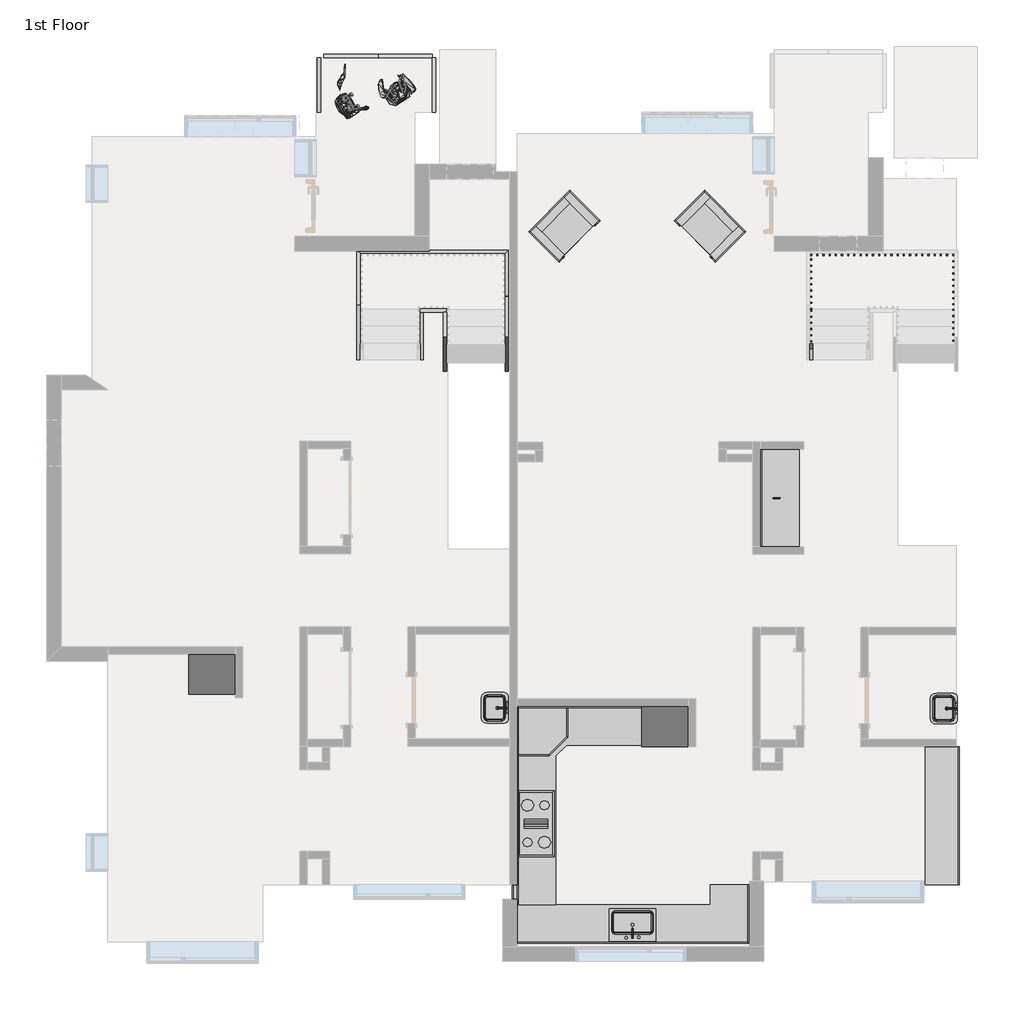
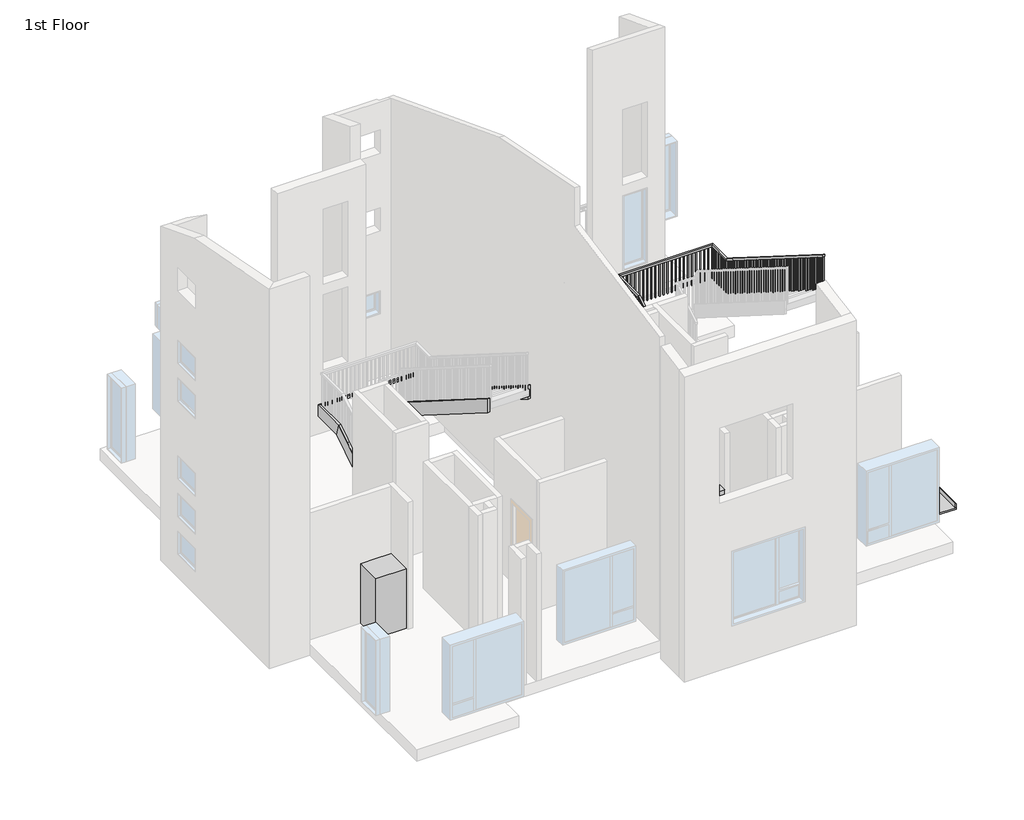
# One storey, part 5 of 6: 15 furniture elements, 8 members, 7 proxies, 4 flow terminals, 2 geographic elements, 1 railing.
"""IFC4 building model written with IfcOpenShell, lengths in millimetres."""

from ifc_helpers import new_model, si_unit, frame, origin, place, context, project, spatial, polyline, outline, extrude, faceted_brep, transform, mapped, element, save
from components import proxy_dee7c00b, proxy_442c6cfd, railing_1panel_square_2b676750, flow_terminal_4af5d52b, flow_terminal_5184717d, flow_terminal_0aeb31e3, furniture_f1e63d7b, furniture_c05eaed2, furniture_9c6ca97c, furniture_16018ffc, furniture_1f73a918, furniture_61266c35, furniture_aef3df76, furniture_a113b24a, furniture_f167ba72, corbu_armchair_corbu_armchair_71097553, corbu_armchair_corbu_armchair_8b21c121, furniture_7ee350fa, counter_top_counter_top_2_d2a73151, furniture_c58d4479, furniture_23ed0d10, geographic_element_6e18f213, geographic_element_c4ab7724, geographic_element_af0ef37f

model = new_model("IFC4")

# Units and contexts
model_context = context("Model", 3, world=origin())
ifc_project = project(units=[si_unit("LENGTHUNIT", "METRE", prefix="MILLI")], contexts=[model_context])

# Site, building, storey
site = spatial("IfcSite", under=ifc_project)
building = spatial("IfcBuilding", under=site)
storey = spatial("IfcBuildingStorey", under=building, Name="1st Floor", Elevation=0.0)

# Proxies
placement = place(None, origin())
proxy_shape = proxy_dee7c00b(model_context)
element("IfcBuildingElementProxy", 1, Name="Cook Top-4 Unit : 40\" x 21\"", ObjectType="Cook Top-4 Unit : 40\" x 21\"", at=placement, inside=storey, context=model_context, shape_type="MappedRepresentation", body=[
    mapped(proxy_shape, transform((-1269.7321781, -4910.7686915, 127.0), x_axis=(0.0, 1.0, 0.0), y_axis=(-1.0, 0.0, 0.0), z_axis=(0.0, 0.0, 1.0))),
])
proxy_2_shape = proxy_442c6cfd(model_context)
element("IfcBuildingElementProxy", 2, Name="Refrigerator : 30\" x 62\"", ObjectType="Refrigerator : 30\" x 62\"", at=placement, inside=storey, context=model_context, shape_type="MappedRepresentation", body=[
    mapped(proxy_2_shape, transform((1235.5655789, -2979.9561915, 0.0), x_axis=(-1.0, 0.0, 0.0), y_axis=(0.0, -1.0, 0.0), z_axis=(0.0, 0.0, 1.0))),
])
element("IfcBuildingElementProxy", 3, Name="Refrigerator : 30\" x 62\"", ObjectType="Refrigerator : 30\" x 62\"", at=placement, inside=storey, context=model_context, shape_type="MappedRepresentation", body=[
    mapped(proxy_2_shape, transform((-6218.0913287, -2121.3686915, 0.0), x_axis=(-1.0, 0.0, 0.0), y_axis=(0.0, -1.0, 0.0), z_axis=(0.0, 0.0, 1.0))),
])
railing_1panel_square_shape = railing_1panel_square_2b676750(model_context)
element("IfcBuildingElementProxy", 4, Name="railing(inprogress)3 : railing 1panel square", ObjectType="railing(inprogress)3 : railing 1panel square", at=placement, inside=storey, context=model_context, shape_type="MappedRepresentation", body=[
    mapped(railing_1panel_square_shape, transform((-4828.9823605, 6715.6813085, 0.0), x_axis=(0.0, 1.0, 0.0), y_axis=(-1.0, 0.0, 0.0), z_axis=(0.0, 0.0, 1.0))),
])
element("IfcBuildingElementProxy", 5, Name="railing(inprogress)3 : railing 1panel square", ObjectType="railing(inprogress)3 : railing 1panel square", at=placement, inside=storey, context=model_context, shape_type="MappedRepresentation", body=[
    mapped(railing_1panel_square_shape, transform((-3947.8910651, 7708.5252297, 0.0), x_axis=(1.0, 0.0, 0.0), y_axis=(0.0, 1.0, 0.0), z_axis=(0.0, 0.0, 1.0))),
])
element("IfcBuildingElementProxy", 6, Name="railing(inprogress)3 : railing 1panel square", ObjectType="railing(inprogress)3 : railing 1panel square", at=placement, inside=storey, context=model_context, shape_type="MappedRepresentation", body=[
    mapped(railing_1panel_square_shape, transform((-4839.2723151, 7708.900241, 0.0), x_axis=(1.0, 0.0, 0.0), y_axis=(0.0, 1.0, 0.0), z_axis=(0.0, 0.0, 1.0))),
])
element("IfcBuildingElementProxy", 7, Name="railing(inprogress)3 : railing 1panel square", ObjectType="railing(inprogress)3 : railing 1panel square", at=placement, inside=storey, context=model_context, shape_type="MappedRepresentation", body=[
    mapped(railing_1panel_square_shape, transform((-2955.3010146, 7772.1625585, 0.0), x_axis=(0.0, -1.0, 0.0), y_axis=(1.0, 0.0, 0.0), z_axis=(0.0, 0.0, 1.0))),
])

# Flow terminals
flow_terminal_shape = flow_terminal_4af5d52b(model_context)
element("IfcFlowTerminal", 8, ObjectType="Sink Kitchen-Single : 30\" x 21\"", at=placement, inside=storey, context=model_context, shape_type="MappedRepresentation", body=[
    mapped(flow_terminal_shape, transform((334.5070625, -6571.2232904, 0.0), x_axis=(-1.0, 0.0, 0.0), y_axis=(0.0, -1.0, 0.0), z_axis=(0.0, 0.0, 1.0))),
])
flow_terminal_2_shape = flow_terminal_5184717d(model_context)
element("IfcFlowTerminal", 9, ObjectType="Sink Vanity-Round : 19\" x 19\"", at=placement, inside=storey, context=model_context, shape_type="MappedRepresentation", body=[
    mapped(flow_terminal_2_shape, transform((2881.7281723, 350.65568, 0.0), x_axis=(0.0, 1.0, 0.0), y_axis=(-1.0, 0.0, 0.0), z_axis=(0.0, 0.0, 1.0))),
])
flow_terminal_3_shape = flow_terminal_0aeb31e3(model_context)
element("IfcFlowTerminal", 10, ObjectType="Sink Vanity-Square : 24\" x 19\"", at=placement, inside=storey, context=model_context, shape_type="MappedRepresentation", body=[
    mapped(flow_terminal_3_shape, transform((5486.3201778, -2998.8737314, 0.0), x_axis=(0.0, -1.0, 0.0), y_axis=(1.0, 0.0, 0.0), z_axis=(0.0, 0.0, 1.0))),
])
element("IfcFlowTerminal", 11, ObjectType="Sink Vanity-Square : 24\" x 19\"", at=placement, inside=storey, context=model_context, shape_type="MappedRepresentation", body=[
    mapped(flow_terminal_3_shape, transform((-1903.9025792, -2988.8737314, 0.0), x_axis=(0.0, -1.0, 0.0), y_axis=(1.0, 0.0, 0.0), z_axis=(0.0, 0.0, 1.0))),
])

# Furniture
furniture_shape = furniture_f1e63d7b(model_context)
element("IfcFurniture", 12, ObjectType="Base Cabinet-Single Door & Drawer : 12\"", at=placement, inside=storey, context=model_context, shape_type="MappedRepresentation", body=[
    mapped(furniture_shape, transform((2242.8678219, -6096.0434866, 0.0), x_axis=(0.0, -1.0, 0.0), y_axis=(1.0, 0.0, 0.0), z_axis=(0.0, 0.0, 1.0))),
])
furniture_2_shape = furniture_c05eaed2(model_context)
element("IfcFurniture", 13, ObjectType="Base Cabinet-Single Door & Drawer : 24\"", at=placement, inside=storey, context=model_context, shape_type="MappedRepresentation", body=[
    mapped(furniture_2_shape, transform((-1660.0344211, -4116.7063964, 0.0), x_axis=(0.0, 1.0, 0.0), y_axis=(-1.0, 0.0, 0.0), z_axis=(0.0, 0.0, 1.0))),
])
furniture_3_shape = furniture_9c6ca97c(model_context)
element("IfcFurniture", 14, ObjectType="Base Cabinet-Double Door & 2 Drawer : 33\"", at=placement, inside=storey, context=model_context, shape_type="MappedRepresentation", body=[
    mapped(furniture_3_shape, transform((-1660.0344211, -5888.3563964, 0.0), x_axis=(0.0, 1.0, 0.0), y_axis=(-1.0, 0.0, 0.0), z_axis=(0.0, 0.0, 1.0))),
])
furniture_4_shape = furniture_16018ffc(model_context)
element("IfcFurniture", 15, ObjectType="Base Cabinet-Double Door & 2 Drawer : 33\"", at=placement, inside=storey, context=model_context, shape_type="MappedRepresentation", body=[
    mapped(furniture_4_shape, transform((1214.480117, -6878.3686915, 0.0), x_axis=(1.0, 0.0, 0.0), y_axis=(0.0, 1.0, 0.0), z_axis=(0.0, 0.0, 1.0))),
])
furniture_5_shape = furniture_1f73a918(model_context)
element("IfcFurniture", 16, ObjectType="Base Cabinet-Double Door & 2 Drawer : 48\"", at=placement, inside=storey, context=model_context, shape_type="MappedRepresentation", body=[
    mapped(furniture_5_shape, transform((-154.772126, -2913.2436915, 0.0), x_axis=(1.0, 0.0, 0.0), y_axis=(0.0, 1.0, 0.0), z_axis=(0.0, 0.0, 1.0))),
])
furniture_6_shape = furniture_61266c35(model_context)
element("IfcFurniture", 17, ObjectType="Base Cabinet-Corner Unit-Angled : 36\"", at=placement, inside=storey, context=model_context, shape_type="MappedRepresentation", body=[
    mapped(furniture_6_shape, transform((-1133.2967162, -2878.7686915, 0.0), x_axis=(-1.0, 0.0, 0.0), y_axis=(0.0, -1.0, 0.0), z_axis=(0.0, 0.0, 1.0))),
])
furniture_7_shape = furniture_aef3df76(model_context)
element("IfcFurniture", 18, ObjectType="Base Cabinet-Double Door Sink Unit : 36\"", at=placement, inside=storey, context=model_context, shape_type="MappedRepresentation", body=[
    mapped(furniture_7_shape, transform((-652.419883, -6878.3686915, 0.0), x_axis=(1.0, 0.0, 0.0), y_axis=(0.0, 1.0, 0.0), z_axis=(0.0, 0.0, 1.0))),
])
furniture_8_shape = furniture_a113b24a(model_context)
element("IfcFurniture", 19, ObjectType="Base Cabinet-Double Door Sink Unit : 39\"", at=placement, inside=storey, context=model_context, shape_type="MappedRepresentation", body=[
    mapped(furniture_8_shape, transform((300.080117, -6878.3686915, 0.0), x_axis=(1.0, 0.0, 0.0), y_axis=(0.0, 1.0, 0.0), z_axis=(0.0, 0.0, 1.0))),
])
furniture_9_shape = furniture_f167ba72(model_context)
element("IfcFurniture", 20, ObjectType="Base Cabinet-Double Door Sink Unit : 42\"", at=placement, inside=storey, context=model_context, shape_type="MappedRepresentation", body=[
    mapped(furniture_9_shape, transform((-1660.0344211, -4935.8563964, 0.0), x_axis=(0.0, 1.0, 0.0), y_axis=(-1.0, 0.0, 0.0), z_axis=(0.0, 0.0, 1.0))),
])
corbu_armchair_corbu_armchair_shape = corbu_armchair_corbu_armchair_71097553(model_context)
element("IfcFurniture", 21, ObjectType="Corbu armchair : Corbu armchair", at=placement, inside=storey, context=model_context, shape_type="MappedRepresentation", body=[
    mapped(corbu_armchair_corbu_armchair_shape, transform((859.2867526, 4996.2834177, 0.0), x_axis=(0.7071067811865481, -0.7071067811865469, 0.0), y_axis=(0.7071067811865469, 0.7071067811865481, 0.0), z_axis=(0.0, 0.0, 1.0))),
])
corbu_armchair_corbu_armchair_2_shape = corbu_armchair_corbu_armchair_8b21c121(model_context)
element("IfcFurniture", 22, ObjectType="Corbu armchair : Corbu armchair", at=placement, inside=storey, context=model_context, shape_type="MappedRepresentation", body=[
    mapped(corbu_armchair_corbu_armchair_2_shape, transform((-64.4660693, 4996.2834177, 0.0), x_axis=(-0.7071067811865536, -0.7071067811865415, 0.0), y_axis=(0.7071067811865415, -0.7071067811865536, 0.0), z_axis=(0.0, 0.0, 1.0))),
])
furniture_10_shape = furniture_7ee350fa(model_context)
element("IfcFurniture", 23, ObjectType="Counter Top : 24\" Depth", at=placement, inside=storey, context=model_context, shape_type="MappedRepresentation", body=[
    mapped(furniture_10_shape, transform((2424.6053219, 847.6436036, 0.0), x_axis=(0.0, 1.0, 0.0), y_axis=(-1.0, 0.0, 0.0), z_axis=(0.0, 0.0, 1.0))),
])
counter_top_counter_top_2_shape = counter_top_counter_top_2_d2a73151(model_context)
element("IfcFurniture", 24, ObjectType="Counter Top : Counter Top 2", at=placement, inside=storey, context=model_context, shape_type="MappedRepresentation", body=[
    mapped(counter_top_counter_top_2_shape, transform((5698.2155789, -4847.1309866, 0.0), x_axis=(0.0, -1.0, 0.0), y_axis=(1.0, 0.0, 0.0), z_axis=(0.0, 0.0, 1.0))),
])
furniture_11_shape = furniture_c58d4479(model_context)
element("IfcFurniture", 25, ObjectType="Counter Top-L Shaped 2 : 24\" Depth", at=placement, inside=storey, context=model_context, shape_type="MappedRepresentation", body=[
    mapped(furniture_11_shape, transform((-375.657383, -2980.3686915, 0.0), x_axis=(1.0, 0.0, 0.0), y_axis=(0.0, 1.0, 0.0), z_axis=(0.0, 0.0, 1.0))),
])
furniture_12_shape = furniture_23ed0d10(model_context)
element("IfcFurniture", 26, ObjectType="Counter Top-L Shaped w Sink Hole : 24\" Depth", at=placement, inside=storey, context=model_context, shape_type="MappedRepresentation", body=[
    mapped(furniture_12_shape, transform((1036.0555268, -6878.3686915, 0.0), x_axis=(-1.0, 0.0, 0.0), y_axis=(0.0, -1.0, 0.0), z_axis=(0.0, 0.0, 1.0))),
])

# Geographic elements
geographic_element_shape = geographic_element_6e18f213(model_context)
geographic_element_2_shape = geographic_element_c4ab7724(model_context)
element("IfcGeographicElement", 27, ObjectType="Woman05[1] : Woman05[1]", at=placement, inside=storey, context=model_context, shape_type="MappedRepresentation", body=[
    mapped(geographic_element_shape, transform((-4474.9881756, 6763.5643932, 0.0), x_axis=(0.8660254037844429, 0.49999999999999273, 0.0), y_axis=(-0.49999999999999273, 0.8660254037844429, 0.0), z_axis=(0.0, 0.0, 1.0))),
    mapped(geographic_element_2_shape, transform((-4474.9881756, 6763.5643932, 0.0), x_axis=(0.8660254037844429, 0.49999999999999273, 0.0), y_axis=(-0.49999999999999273, 0.8660254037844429, 0.0), z_axis=(0.0, 0.0, 1.0))),
])
geographic_element_3_shape = geographic_element_af0ef37f(model_context)
element("IfcGeographicElement", 28, ObjectType="Man10[1] : Man10[1]", at=placement, inside=storey, context=model_context, shape_type="MappedRepresentation", body=[
    mapped(geographic_element_3_shape, transform((-3406.0011628, 7044.0246176, 0.0), x_axis=(-0.34202014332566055, 0.9396926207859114, 0.0), y_axis=(-0.9396926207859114, -0.34202014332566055, 0.0), z_axis=(0.0, 0.0, 1.0))),
])

# Members
element("IfcMember", 29, ObjectType="Stringer - 2\" Width", at=placement, inside=storey, context=model_context, shape_type="SweptSolid", body=[
    extrude(outline(polyline([(2721.6563085, 0.0), (2721.6563085, 214.5443726), (3620.2110519, 782.0526316), (3708.4050603, 477.2526316), (2952.7550603, 0.0), (2721.6563085, 0.0)])), frame((-4214.9663287, 0.0, 0.0), z_axis=(1.0, 0.0, 0.0), x_axis=(0.0, 1.0, 0.0)), (0.0, 0.0, 1.0), 50.8),
])
element("IfcMember", 30, ObjectType="Stringer - 2\" Width", at=placement, inside=storey, context=model_context, shape_type="SweptSolid", body=[
    extrude(outline(polyline([(2721.6563085, 0.0), (2721.6563085, 214.5443726), (3509.0563085, 711.8496358), (3509.0563085, 351.3481568), (2952.7550603, 0.0), (2721.6563085, 0.0)])), frame((-3173.5663287, 0.0, 0.0), z_axis=(1.0, 0.0, 0.0), x_axis=(0.0, 1.0, 0.0)), (0.0, 0.0, 1.0), 50.8),
])
element("IfcMember", 31, ObjectType="Stringer - 2\" Width", at=placement, inside=storey, context=model_context, shape_type="SweptSolid", body=[
    extrude(outline(polyline([(3765.7015652, 782.0526316), (3677.5075568, 477.2526316), (-364.9436915, 3030.3797357), (-364.9436915, 3390.8812147), (3765.7015652, 782.0526316)])), frame((-1774.5571781, 0.0, 0.0), z_axis=(1.0, 0.0, 0.0), x_axis=(0.0, 1.0, 0.0)), (0.0, 0.0, 1.0), 50.8),
])
element("IfcMember", 32, ObjectType="Stringer - 2\" Width", at=placement, inside=storey, context=model_context, shape_type="SweptSolid", body=[
    extrude(outline(polyline([(3509.0563085, 944.1443726), (3509.0563085, 583.6428936), (-364.9436915, 3030.3797357), (-364.9436915, 3390.8812147), (3509.0563085, 944.1443726)])), frame((-2790.5571781, 0.0, 0.0), z_axis=(1.0, 0.0, 0.0), x_axis=(0.0, 1.0, 0.0)), (0.0, 0.0, 1.0), 50.8),
])
element("IfcMember", 33, ObjectType="Stringer - 2\" Width", at=placement, inside=storey, context=model_context, shape_type="Brep", body=[
    faceted_brep([(-1774.5571781, 3765.7015652, 782.0526316), (-1723.7571781, 3765.7015652, 782.0526316), (-1723.7571781, 4525.0563085, 782.0526316), (-1774.5571781, 4474.2563085, 782.0526316), (-1774.5571781, 3677.5075568, 477.2526316), (-1774.5571781, 4474.2563085, 477.2526316), (-1723.7571781, 3677.5075568, 477.2526316), (-1723.7571781, 4525.0563085, 477.2526316)], [[[0, 1, 2, 3]], [[4, 0, 3, 5]], [[6, 4, 5, 7]], [[1, 6, 7, 2]], [[1, 0, 4, 6]], [[2, 7, 5, 3]]]),
])
element("IfcMember", 34, ObjectType="Stringer - 2\" Width", at=placement, inside=storey, context=model_context, shape_type="SweptSolid", body=[
    extrude(outline(polyline([(-1723.7571781, 4525.0563085), (-1774.5571781, 4474.2563085), (-4164.1663287, 4474.2563085), (-4214.9663287, 4525.0563085), (-1723.7571781, 4525.0563085)])), frame((0.0, 0.0, 477.2526316), z_axis=(0.0, 0.0, 1.0), x_axis=(1.0, 0.0, 0.0)), (0.0, 0.0, 1.0), 304.8),
])
element("IfcMember", 35, ObjectType="Stringer - 2\" Width", at=placement, inside=storey, context=model_context, shape_type="Brep", body=[
    faceted_brep([(-4164.1663287, 4474.2563085, 782.0526316), (-4214.9663287, 4525.0563085, 782.0526316), (-4214.9663287, 3620.2110519, 782.0526316), (-4164.1663287, 3620.2110519, 782.0526316), (-4164.1663287, 4474.2563085, 477.2526316), (-4164.1663287, 3708.4050603, 477.2526316), (-4214.9663287, 4525.0563085, 477.2526316), (-4214.9663287, 3708.4050603, 477.2526316)], [[[0, 1, 2, 3]], [[4, 0, 3, 5]], [[6, 4, 5, 7]], [[1, 6, 7, 2]], [[1, 0, 4, 6]], [[2, 7, 5, 3]]]),
])
element("IfcMember", 36, ObjectType="Stringer - 2\" Width", at=placement, inside=storey, context=model_context, shape_type="SweptSolid", body=[
    extrude(outline(polyline([(-3173.5663287, 3509.0563085), (-3173.5663287, 3559.8563085), (-2739.7571781, 3559.8563085), (-2739.7571781, 3509.0563085), (-3173.5663287, 3509.0563085)])), frame((0.0, 0.0, 477.2526316), z_axis=(0.0, 0.0, 1.0), x_axis=(1.0, 0.0, 0.0)), (0.0, 0.0, 1.0), 304.8),
])

# Railing
element("IfcRailing", 37, ObjectType="Handrail - Rectangular", at=placement, inside=storey, context=model_context, shape_type="SolidModel", body=[
    faceted_brep([(3233.9939282, 2721.6563085, 1090.8631579), (3233.9939282, 2721.6563085, 1030.7795781), (3284.7939282, 2721.6563085, 1030.7795781), (3284.7939282, 2721.6563085, 1090.8631579), (3233.9939282, 3559.8563085, 1620.2526316), (3233.9939282, 3574.5553099, 1569.4526316), (3284.7939282, 3574.5553099, 1569.4526316), (3284.7939282, 3559.8563085, 1620.2526316), (3233.9939282, 4474.2563085, 1620.2526316), (3233.9939282, 4474.2563085, 1569.4526316), (3284.7939282, 4423.4563085, 1569.4526316), (3284.7939282, 4423.4563085, 1620.2526316), (5623.6030789, 4474.2563085, 1620.2526316), (5623.6030789, 4474.2563085, 1569.4526316), (5572.8030789, 4423.4563085, 1569.4526316), (5572.8030789, 4423.4563085, 1620.2526316), (5623.6030789, 3826.0563085, 1620.2526316), (5623.6030789, 3811.3573071, 1569.4526316), (5572.8030789, 3811.3573071, 1569.4526316), (5572.8030789, 3826.0563085, 1620.2526316), (5623.6030789, 3546.6563085, 1796.7157895), (5623.6030789, 3519.5294646, 1753.7649532), (5572.8030789, 3519.5294646, 1753.7649532), (5572.8030789, 3546.6563085, 1796.7157895), (5623.6030789, -364.9436915, 4267.2), (5572.8030789, -364.9436915, 4267.2), (5572.8030789, -364.9436915, 4207.1164202), (5623.6030789, -364.9436915, 4207.1164202)], [[[0, 1, 2, 3]], [[1, 0, 4, 5]], [[2, 1, 5, 6]], [[3, 2, 6, 7]], [[0, 3, 7, 4]], [[5, 4, 8, 9]], [[6, 5, 9, 10]], [[7, 6, 10, 11]], [[4, 7, 11, 8]], [[9, 8, 12, 13]], [[10, 9, 13, 14]], [[11, 10, 14, 15]], [[8, 11, 15, 12]], [[13, 12, 16, 17]], [[14, 13, 17, 18]], [[15, 14, 18, 19]], [[12, 15, 19, 16]], [[17, 16, 20, 21]], [[18, 17, 21, 22]], [[19, 18, 22, 23]], [[16, 19, 23, 20]], [[24, 25, 26, 27]], [[21, 20, 24, 27]], [[22, 21, 27, 26]], [[23, 22, 26, 25]], [[20, 23, 25, 24]]]),
    extrude(outline(polyline([(-304.6186915, 4169.0164202), (-304.6186915, 3176.3368421), (-323.6686915, 3176.3368421), (-323.6686915, 4181.0479991), (-304.6186915, 4169.0164202)])), frame((5588.6780789, 0.0, 0.0), z_axis=(1.0, 0.0, 0.0), x_axis=(0.0, 1.0, 0.0)), (0.0, 0.0, 1.0), 19.05),
    extrude(outline(polyline([(-203.0186915, 4104.8479991), (-203.0186915, 3176.3368421), (-222.0686915, 3176.3368421), (-222.0686915, 4116.8795781), (-203.0186915, 4104.8479991)])), frame((5588.6780789, 0.0, 0.0), z_axis=(1.0, 0.0, 0.0), x_axis=(0.0, 1.0, 0.0)), (0.0, 0.0, 1.0), 19.05),
    extrude(outline(polyline([(-101.4186915, 4040.6795781), (-101.4186915, 3176.3368421), (-120.4686915, 3176.3368421), (-120.4686915, 4052.711157), (-101.4186915, 4040.6795781)])), frame((5588.6780789, 0.0, 0.0), z_axis=(1.0, 0.0, 0.0), x_axis=(0.0, 1.0, 0.0)), (0.0, 0.0, 1.0), 19.05),
    extrude(outline(polyline([(0.1813085, 3976.511157), (0.1813085, 2999.8736842), (-18.8686915, 2999.8736842), (-18.8686915, 3988.542736), (0.1813085, 3976.511157)])), frame((5588.6780789, 0.0, 0.0), z_axis=(1.0, 0.0, 0.0), x_axis=(0.0, 1.0, 0.0)), (0.0, 0.0, 1.0), 19.05),
    extrude(outline(polyline([(101.7813085, 3912.342736), (101.7813085, 2999.8736842), (82.7313085, 2999.8736842), (82.7313085, 3924.3743149), (101.7813085, 3912.342736)])), frame((5588.6780789, 0.0, 0.0), z_axis=(1.0, 0.0, 0.0), x_axis=(0.0, 1.0, 0.0)), (0.0, 0.0, 1.0), 19.05),
    extrude(outline(polyline([(203.3813085, 3848.1743149), (203.3813085, 2999.8736842), (184.3313085, 2999.8736842), (184.3313085, 3860.2058939), (203.3813085, 3848.1743149)])), frame((5588.6780789, 0.0, 0.0), z_axis=(1.0, 0.0, 0.0), x_axis=(0.0, 1.0, 0.0)), (0.0, 0.0, 1.0), 19.05),
    extrude(outline(polyline([(304.9813085, 3784.0058939), (304.9813085, 2823.4105263), (285.9313085, 2823.4105263), (285.9313085, 3796.0374728), (304.9813085, 3784.0058939)])), frame((5588.6780789, 0.0, 0.0), z_axis=(1.0, 0.0, 0.0), x_axis=(0.0, 1.0, 0.0)), (0.0, 0.0, 1.0), 19.05),
    extrude(outline(polyline([(406.5813085, 3719.8374728), (406.5813085, 2823.4105263), (387.5313085, 2823.4105263), (387.5313085, 3731.8690517), (406.5813085, 3719.8374728)])), frame((5588.6780789, 0.0, 0.0), z_axis=(1.0, 0.0, 0.0), x_axis=(0.0, 1.0, 0.0)), (0.0, 0.0, 1.0), 19.05),
    extrude(outline(polyline([(508.1813085, 3655.6690517), (508.1813085, 2646.9473684), (489.1313085, 2646.9473684), (489.1313085, 3667.7006307), (508.1813085, 3655.6690517)])), frame((5588.6780789, 0.0, 0.0), z_axis=(1.0, 0.0, 0.0), x_axis=(0.0, 1.0, 0.0)), (0.0, 0.0, 1.0), 19.05),
    extrude(outline(polyline([(609.7813085, 3591.5006307), (609.7813085, 2646.9473684), (590.7313085, 2646.9473684), (590.7313085, 3603.5322096), (609.7813085, 3591.5006307)])), frame((5588.6780789, 0.0, 0.0), z_axis=(1.0, 0.0, 0.0), x_axis=(0.0, 1.0, 0.0)), (0.0, 0.0, 1.0), 19.05),
    extrude(outline(polyline([(711.3813085, 3527.3322096), (711.3813085, 2646.9473684), (692.3313085, 2646.9473684), (692.3313085, 3539.3637886), (711.3813085, 3527.3322096)])), frame((5588.6780789, 0.0, 0.0), z_axis=(1.0, 0.0, 0.0), x_axis=(0.0, 1.0, 0.0)), (0.0, 0.0, 1.0), 19.05),
    extrude(outline(polyline([(812.9813085, 3463.1637886), (812.9813085, 2470.4842105), (793.9313085, 2470.4842105), (793.9313085, 3475.1953675), (812.9813085, 3463.1637886)])), frame((5588.6780789, 0.0, 0.0), z_axis=(1.0, 0.0, 0.0), x_axis=(0.0, 1.0, 0.0)), (0.0, 0.0, 1.0), 19.05),
    extrude(outline(polyline([(914.5813085, 3398.9953675), (914.5813085, 2470.4842105), (895.5313085, 2470.4842105), (895.5313085, 3411.0269465), (914.5813085, 3398.9953675)])), frame((5588.6780789, 0.0, 0.0), z_axis=(1.0, 0.0, 0.0), x_axis=(0.0, 1.0, 0.0)), (0.0, 0.0, 1.0), 19.05),
    extrude(outline(polyline([(1016.1813085, 3334.8269465), (1016.1813085, 2470.4842105), (997.1313085, 2470.4842105), (997.1313085, 3346.8585254), (1016.1813085, 3334.8269465)])), frame((5588.6780789, 0.0, 0.0), z_axis=(1.0, 0.0, 0.0), x_axis=(0.0, 1.0, 0.0)), (0.0, 0.0, 1.0), 19.05),
    extrude(outline(polyline([(1117.7813085, 3270.6585254), (1117.7813085, 2294.0210526), (1098.7313085, 2294.0210526), (1098.7313085, 3282.6901044), (1117.7813085, 3270.6585254)])), frame((5588.6780789, 0.0, 0.0), z_axis=(1.0, 0.0, 0.0), x_axis=(0.0, 1.0, 0.0)), (0.0, 0.0, 1.0), 19.05),
    extrude(outline(polyline([(1219.3813085, 3206.4901044), (1219.3813085, 2294.0210526), (1200.3313085, 2294.0210526), (1200.3313085, 3218.5216833), (1219.3813085, 3206.4901044)])), frame((5588.6780789, 0.0, 0.0), z_axis=(1.0, 0.0, 0.0), x_axis=(0.0, 1.0, 0.0)), (0.0, 0.0, 1.0), 19.05),
    extrude(outline(polyline([(1320.9813085, 3142.3216833), (1320.9813085, 2294.0210526), (1301.9313085, 2294.0210526), (1301.9313085, 3154.3532623), (1320.9813085, 3142.3216833)])), frame((5588.6780789, 0.0, 0.0), z_axis=(1.0, 0.0, 0.0), x_axis=(0.0, 1.0, 0.0)), (0.0, 0.0, 1.0), 19.05),
    extrude(outline(polyline([(1422.5813085, 3078.1532623), (1422.5813085, 2117.5578947), (1403.5313085, 2117.5578947), (1403.5313085, 3090.1848412), (1422.5813085, 3078.1532623)])), frame((5588.6780789, 0.0, 0.0), z_axis=(1.0, 0.0, 0.0), x_axis=(0.0, 1.0, 0.0)), (0.0, 0.0, 1.0), 19.05),
    extrude(outline(polyline([(1524.1813085, 3013.9848412), (1524.1813085, 2117.5578947), (1505.1313085, 2117.5578947), (1505.1313085, 3026.0164202), (1524.1813085, 3013.9848412)])), frame((5588.6780789, 0.0, 0.0), z_axis=(1.0, 0.0, 0.0), x_axis=(0.0, 1.0, 0.0)), (0.0, 0.0, 1.0), 19.05),
    extrude(outline(polyline([(1625.7813085, 2949.8164202), (1625.7813085, 1941.0947368), (1606.7313085, 1941.0947368), (1606.7313085, 2961.8479991), (1625.7813085, 2949.8164202)])), frame((5588.6780789, 0.0, 0.0), z_axis=(1.0, 0.0, 0.0), x_axis=(0.0, 1.0, 0.0)), (0.0, 0.0, 1.0), 19.05),
    extrude(outline(polyline([(1727.3813085, 2885.6479991), (1727.3813085, 1941.0947368), (1708.3313085, 1941.0947368), (1708.3313085, 2897.6795781), (1727.3813085, 2885.6479991)])), frame((5588.6780789, 0.0, 0.0), z_axis=(1.0, 0.0, 0.0), x_axis=(0.0, 1.0, 0.0)), (0.0, 0.0, 1.0), 19.05),
    extrude(outline(polyline([(1828.9813085, 2821.4795781), (1828.9813085, 1941.0947368), (1809.9313085, 1941.0947368), (1809.9313085, 2833.511157), (1828.9813085, 2821.4795781)])), frame((5588.6780789, 0.0, 0.0), z_axis=(1.0, 0.0, 0.0), x_axis=(0.0, 1.0, 0.0)), (0.0, 0.0, 1.0), 19.05),
    extrude(outline(polyline([(1930.5813085, 2757.311157), (1930.5813085, 1764.6315789), (1911.5313085, 1764.6315789), (1911.5313085, 2769.342736), (1930.5813085, 2757.311157)])), frame((5588.6780789, 0.0, 0.0), z_axis=(1.0, 0.0, 0.0), x_axis=(0.0, 1.0, 0.0)), (0.0, 0.0, 1.0), 19.05),
    extrude(outline(polyline([(2032.1813085, 2693.142736), (2032.1813085, 1764.6315789), (2013.1313085, 1764.6315789), (2013.1313085, 2705.1743149), (2032.1813085, 2693.142736)])), frame((5588.6780789, 0.0, 0.0), z_axis=(1.0, 0.0, 0.0), x_axis=(0.0, 1.0, 0.0)), (0.0, 0.0, 1.0), 19.05),
    extrude(outline(polyline([(2133.7813085, 2628.9743149), (2133.7813085, 1764.6315789), (2114.7313085, 1764.6315789), (2114.7313085, 2641.0058939), (2133.7813085, 2628.9743149)])), frame((5588.6780789, 0.0, 0.0), z_axis=(1.0, 0.0, 0.0), x_axis=(0.0, 1.0, 0.0)), (0.0, 0.0, 1.0), 19.05),
    extrude(outline(polyline([(2235.3813085, 2564.8058939), (2235.3813085, 1588.1684211), (2216.3313085, 1588.1684211), (2216.3313085, 2576.8374728), (2235.3813085, 2564.8058939)])), frame((5588.6780789, 0.0, 0.0), z_axis=(1.0, 0.0, 0.0), x_axis=(0.0, 1.0, 0.0)), (0.0, 0.0, 1.0), 19.05),
    extrude(outline(polyline([(2336.9813085, 2500.6374728), (2336.9813085, 1588.1684211), (2317.9313085, 1588.1684211), (2317.9313085, 2512.6690517), (2336.9813085, 2500.6374728)])), frame((5588.6780789, 0.0, 0.0), z_axis=(1.0, 0.0, 0.0), x_axis=(0.0, 1.0, 0.0)), (0.0, 0.0, 1.0), 19.05),
    extrude(outline(polyline([(2438.5813085, 2436.4690517), (2438.5813085, 1588.1684211), (2419.5313085, 1588.1684211), (2419.5313085, 2448.5006307), (2438.5813085, 2436.4690517)])), frame((5588.6780789, 0.0, 0.0), z_axis=(1.0, 0.0, 0.0), x_axis=(0.0, 1.0, 0.0)), (0.0, 0.0, 1.0), 19.05),
    extrude(outline(polyline([(2540.1813085, 2372.3006307), (2540.1813085, 1411.7052632), (2521.1313085, 1411.7052632), (2521.1313085, 2384.3322096), (2540.1813085, 2372.3006307)])), frame((5588.6780789, 0.0, 0.0), z_axis=(1.0, 0.0, 0.0), x_axis=(0.0, 1.0, 0.0)), (0.0, 0.0, 1.0), 19.05),
    extrude(outline(polyline([(2641.7813085, 2308.1322096), (2641.7813085, 1411.7052632), (2622.7313085, 1411.7052632), (2622.7313085, 2320.1637886), (2641.7813085, 2308.1322096)])), frame((5588.6780789, 0.0, 0.0), z_axis=(1.0, 0.0, 0.0), x_axis=(0.0, 1.0, 0.0)), (0.0, 0.0, 1.0), 19.05),
    extrude(outline(polyline([(2743.3813085, 2243.9637886), (2743.3813085, 1235.2421053), (2724.3313085, 1235.2421053), (2724.3313085, 2255.9953675), (2743.3813085, 2243.9637886)])), frame((5588.6780789, 0.0, 0.0), z_axis=(1.0, 0.0, 0.0), x_axis=(0.0, 1.0, 0.0)), (0.0, 0.0, 1.0), 19.05),
    extrude(outline(polyline([(2844.9813085, 2179.7953675), (2844.9813085, 1235.2421053), (2825.9313085, 1235.2421053), (2825.9313085, 2191.8269465), (2844.9813085, 2179.7953675)])), frame((5588.6780789, 0.0, 0.0), z_axis=(1.0, 0.0, 0.0), x_axis=(0.0, 1.0, 0.0)), (0.0, 0.0, 1.0), 19.05),
    extrude(outline(polyline([(2946.5813085, 2115.6269465), (2946.5813085, 1235.2421053), (2927.5313085, 1235.2421053), (2927.5313085, 2127.6585254), (2946.5813085, 2115.6269465)])), frame((5588.6780789, 0.0, 0.0), z_axis=(1.0, 0.0, 0.0), x_axis=(0.0, 1.0, 0.0)), (0.0, 0.0, 1.0), 19.05),
    extrude(outline(polyline([(3048.1813085, 2051.4585254), (3048.1813085, 1058.7789474), (3029.1313085, 1058.7789474), (3029.1313085, 2063.4901044), (3048.1813085, 2051.4585254)])), frame((5588.6780789, 0.0, 0.0), z_axis=(1.0, 0.0, 0.0), x_axis=(0.0, 1.0, 0.0)), (0.0, 0.0, 1.0), 19.05),
    extrude(outline(polyline([(3149.7813085, 1987.2901044), (3149.7813085, 1058.7789474), (3130.7313085, 1058.7789474), (3130.7313085, 1999.3216833), (3149.7813085, 1987.2901044)])), frame((5588.6780789, 0.0, 0.0), z_axis=(1.0, 0.0, 0.0), x_axis=(0.0, 1.0, 0.0)), (0.0, 0.0, 1.0), 19.05),
    extrude(outline(polyline([(3251.3813085, 1923.1216833), (3251.3813085, 1058.7789474), (3232.3313085, 1058.7789474), (3232.3313085, 1935.1532623), (3251.3813085, 1923.1216833)])), frame((5588.6780789, 0.0, 0.0), z_axis=(1.0, 0.0, 0.0), x_axis=(0.0, 1.0, 0.0)), (0.0, 0.0, 1.0), 19.05),
    extrude(outline(polyline([(3352.9813085, 1858.9532623), (3352.9813085, 882.3157895), (3333.9313085, 882.3157895), (3333.9313085, 1870.9848412), (3352.9813085, 1858.9532623)])), frame((5588.6780789, 0.0, 0.0), z_axis=(1.0, 0.0, 0.0), x_axis=(0.0, 1.0, 0.0)), (0.0, 0.0, 1.0), 19.05),
    extrude(outline(polyline([(3454.5813085, 1794.7848412), (3454.5813085, 882.3157895), (3435.5313085, 882.3157895), (3435.5313085, 1806.8164202), (3454.5813085, 1794.7848412)])), frame((5588.6780789, 0.0, 0.0), z_axis=(1.0, 0.0, 0.0), x_axis=(0.0, 1.0, 0.0)), (0.0, 0.0, 1.0), 19.05),
    extrude(outline(polyline([(3645.5813085, 1674.1532623), (3645.5813085, 705.8526316), (3626.5313085, 705.8526316), (3626.5313085, 1686.1848412), (3645.5813085, 1674.1532623)])), frame((5588.6780789, 0.0, 0.0), z_axis=(1.0, 0.0, 0.0), x_axis=(0.0, 1.0, 0.0)), (0.0, 0.0, 1.0), 19.05),
    extrude(outline(polyline([(3747.1813085, 1609.9848412), (3747.1813085, 705.8526316), (3728.1313085, 705.8526316), (3728.1313085, 1622.0164202), (3747.1813085, 1609.9848412)])), frame((5588.6780789, 0.0, 0.0), z_axis=(1.0, 0.0, 0.0), x_axis=(0.0, 1.0, 0.0)), (0.0, 0.0, 1.0), 19.05),
    extrude(outline(polyline([(5607.7280789, 3848.7813085), (5607.7280789, 3829.7313085), (5588.6780789, 3829.7313085), (5588.6780789, 3848.7813085), (5607.7280789, 3848.7813085)])), frame((0.0, 0.0, 705.8526316), z_axis=(0.0, 0.0, 1.0), x_axis=(1.0, 0.0, 0.0)), (0.0, 0.0, 1.0), 863.6),
    extrude(outline(polyline([(5607.7280789, 3950.3813085), (5607.7280789, 3931.3313085), (5588.6780789, 3931.3313085), (5588.6780789, 3950.3813085), (5607.7280789, 3950.3813085)])), frame((0.0, 0.0, 705.8526316), z_axis=(0.0, 0.0, 1.0), x_axis=(1.0, 0.0, 0.0)), (0.0, 0.0, 1.0), 863.6),
    extrude(outline(polyline([(5607.7280789, 4051.9813085), (5607.7280789, 4032.9313085), (5588.6780789, 4032.9313085), (5588.6780789, 4051.9813085), (5607.7280789, 4051.9813085)])), frame((0.0, 0.0, 705.8526316), z_axis=(0.0, 0.0, 1.0), x_axis=(1.0, 0.0, 0.0)), (0.0, 0.0, 1.0), 863.6),
    extrude(outline(polyline([(5607.7280789, 4153.5813085), (5607.7280789, 4134.5313085), (5588.6780789, 4134.5313085), (5588.6780789, 4153.5813085), (5607.7280789, 4153.5813085)])), frame((0.0, 0.0, 705.8526316), z_axis=(0.0, 0.0, 1.0), x_axis=(1.0, 0.0, 0.0)), (0.0, 0.0, 1.0), 863.6),
    extrude(outline(polyline([(5607.7280789, 4255.1813085), (5607.7280789, 4236.1313085), (5588.6780789, 4236.1313085), (5588.6780789, 4255.1813085), (5607.7280789, 4255.1813085)])), frame((0.0, 0.0, 705.8526316), z_axis=(0.0, 0.0, 1.0), x_axis=(1.0, 0.0, 0.0)), (0.0, 0.0, 1.0), 863.6),
    extrude(outline(polyline([(5607.7280789, 4356.7813085), (5607.7280789, 4337.7313085), (5588.6780789, 4337.7313085), (5588.6780789, 4356.7813085), (5607.7280789, 4356.7813085)])), frame((0.0, 0.0, 705.8526316), z_axis=(0.0, 0.0, 1.0), x_axis=(1.0, 0.0, 0.0)), (0.0, 0.0, 1.0), 863.6),
    extrude(outline(polyline([(5586.6689282, 4458.3813085), (5605.7189282, 4458.3813085), (5605.7189282, 4439.3313085), (5586.6689282, 4439.3313085), (5586.6689282, 4458.3813085)])), frame((0.0, 0.0, 705.8526316), z_axis=(0.0, 0.0, 1.0), x_axis=(1.0, 0.0, 0.0)), (0.0, 0.0, 1.0), 863.6),
    extrude(outline(polyline([(5485.0689282, 4458.3813085), (5504.1189282, 4458.3813085), (5504.1189282, 4439.3313085), (5485.0689282, 4439.3313085), (5485.0689282, 4458.3813085)])), frame((0.0, 0.0, 705.8526316), z_axis=(0.0, 0.0, 1.0), x_axis=(1.0, 0.0, 0.0)), (0.0, 0.0, 1.0), 863.6),
    extrude(outline(polyline([(5383.4689282, 4458.3813085), (5402.5189282, 4458.3813085), (5402.5189282, 4439.3313085), (5383.4689282, 4439.3313085), (5383.4689282, 4458.3813085)])), frame((0.0, 0.0, 705.8526316), z_axis=(0.0, 0.0, 1.0), x_axis=(1.0, 0.0, 0.0)), (0.0, 0.0, 1.0), 863.6),
    extrude(outline(polyline([(5281.8689282, 4458.3813085), (5300.9189282, 4458.3813085), (5300.9189282, 4439.3313085), (5281.8689282, 4439.3313085), (5281.8689282, 4458.3813085)])), frame((0.0, 0.0, 705.8526316), z_axis=(0.0, 0.0, 1.0), x_axis=(1.0, 0.0, 0.0)), (0.0, 0.0, 1.0), 863.6),
    extrude(outline(polyline([(5180.2689282, 4458.3813085), (5199.3189282, 4458.3813085), (5199.3189282, 4439.3313085), (5180.2689282, 4439.3313085), (5180.2689282, 4458.3813085)])), frame((0.0, 0.0, 705.8526316), z_axis=(0.0, 0.0, 1.0), x_axis=(1.0, 0.0, 0.0)), (0.0, 0.0, 1.0), 863.6),
    extrude(outline(polyline([(5078.6689282, 4458.3813085), (5097.7189282, 4458.3813085), (5097.7189282, 4439.3313085), (5078.6689282, 4439.3313085), (5078.6689282, 4458.3813085)])), frame((0.0, 0.0, 705.8526316), z_axis=(0.0, 0.0, 1.0), x_axis=(1.0, 0.0, 0.0)), (0.0, 0.0, 1.0), 863.6),
    extrude(outline(polyline([(4977.0689282, 4458.3813085), (4996.1189282, 4458.3813085), (4996.1189282, 4439.3313085), (4977.0689282, 4439.3313085), (4977.0689282, 4458.3813085)])), frame((0.0, 0.0, 705.8526316), z_axis=(0.0, 0.0, 1.0), x_axis=(1.0, 0.0, 0.0)), (0.0, 0.0, 1.0), 863.6),
    extrude(outline(polyline([(4875.4689282, 4458.3813085), (4894.5189282, 4458.3813085), (4894.5189282, 4439.3313085), (4875.4689282, 4439.3313085), (4875.4689282, 4458.3813085)])), frame((0.0, 0.0, 705.8526316), z_axis=(0.0, 0.0, 1.0), x_axis=(1.0, 0.0, 0.0)), (0.0, 0.0, 1.0), 863.6),
    extrude(outline(polyline([(4773.8689282, 4458.3813085), (4792.9189282, 4458.3813085), (4792.9189282, 4439.3313085), (4773.8689282, 4439.3313085), (4773.8689282, 4458.3813085)])), frame((0.0, 0.0, 705.8526316), z_axis=(0.0, 0.0, 1.0), x_axis=(1.0, 0.0, 0.0)), (0.0, 0.0, 1.0), 863.6),
    extrude(outline(polyline([(4672.2689282, 4458.3813085), (4691.3189282, 4458.3813085), (4691.3189282, 4439.3313085), (4672.2689282, 4439.3313085), (4672.2689282, 4458.3813085)])), frame((0.0, 0.0, 705.8526316), z_axis=(0.0, 0.0, 1.0), x_axis=(1.0, 0.0, 0.0)), (0.0, 0.0, 1.0), 863.6),
    extrude(outline(polyline([(4570.6689282, 4458.3813085), (4589.7189282, 4458.3813085), (4589.7189282, 4439.3313085), (4570.6689282, 4439.3313085), (4570.6689282, 4458.3813085)])), frame((0.0, 0.0, 705.8526316), z_axis=(0.0, 0.0, 1.0), x_axis=(1.0, 0.0, 0.0)), (0.0, 0.0, 1.0), 863.6),
    extrude(outline(polyline([(4469.0689282, 4458.3813085), (4488.1189282, 4458.3813085), (4488.1189282, 4439.3313085), (4469.0689282, 4439.3313085), (4469.0689282, 4458.3813085)])), frame((0.0, 0.0, 705.8526316), z_axis=(0.0, 0.0, 1.0), x_axis=(1.0, 0.0, 0.0)), (0.0, 0.0, 1.0), 863.6),
    extrude(outline(polyline([(4367.4689282, 4458.3813085), (4386.5189282, 4458.3813085), (4386.5189282, 4439.3313085), (4367.4689282, 4439.3313085), (4367.4689282, 4458.3813085)])), frame((0.0, 0.0, 705.8526316), z_axis=(0.0, 0.0, 1.0), x_axis=(1.0, 0.0, 0.0)), (0.0, 0.0, 1.0), 863.6),
    extrude(outline(polyline([(4265.8689282, 4458.3813085), (4284.9189282, 4458.3813085), (4284.9189282, 4439.3313085), (4265.8689282, 4439.3313085), (4265.8689282, 4458.3813085)])), frame((0.0, 0.0, 705.8526316), z_axis=(0.0, 0.0, 1.0), x_axis=(1.0, 0.0, 0.0)), (0.0, 0.0, 1.0), 863.6),
    extrude(outline(polyline([(4164.2689282, 4458.3813085), (4183.3189282, 4458.3813085), (4183.3189282, 4439.3313085), (4164.2689282, 4439.3313085), (4164.2689282, 4458.3813085)])), frame((0.0, 0.0, 705.8526316), z_axis=(0.0, 0.0, 1.0), x_axis=(1.0, 0.0, 0.0)), (0.0, 0.0, 1.0), 863.6),
    extrude(outline(polyline([(4062.6689282, 4458.3813085), (4081.7189282, 4458.3813085), (4081.7189282, 4439.3313085), (4062.6689282, 4439.3313085), (4062.6689282, 4458.3813085)])), frame((0.0, 0.0, 705.8526316), z_axis=(0.0, 0.0, 1.0), x_axis=(1.0, 0.0, 0.0)), (0.0, 0.0, 1.0), 863.6),
    extrude(outline(polyline([(3961.0689282, 4458.3813085), (3980.1189282, 4458.3813085), (3980.1189282, 4439.3313085), (3961.0689282, 4439.3313085), (3961.0689282, 4458.3813085)])), frame((0.0, 0.0, 705.8526316), z_axis=(0.0, 0.0, 1.0), x_axis=(1.0, 0.0, 0.0)), (0.0, 0.0, 1.0), 863.6),
    extrude(outline(polyline([(3859.4689282, 4458.3813085), (3878.5189282, 4458.3813085), (3878.5189282, 4439.3313085), (3859.4689282, 4439.3313085), (3859.4689282, 4458.3813085)])), frame((0.0, 0.0, 705.8526316), z_axis=(0.0, 0.0, 1.0), x_axis=(1.0, 0.0, 0.0)), (0.0, 0.0, 1.0), 863.6),
    extrude(outline(polyline([(3757.8689282, 4458.3813085), (3776.9189282, 4458.3813085), (3776.9189282, 4439.3313085), (3757.8689282, 4439.3313085), (3757.8689282, 4458.3813085)])), frame((0.0, 0.0, 705.8526316), z_axis=(0.0, 0.0, 1.0), x_axis=(1.0, 0.0, 0.0)), (0.0, 0.0, 1.0), 863.6),
    extrude(outline(polyline([(3656.2689282, 4458.3813085), (3675.3189282, 4458.3813085), (3675.3189282, 4439.3313085), (3656.2689282, 4439.3313085), (3656.2689282, 4458.3813085)])), frame((0.0, 0.0, 705.8526316), z_axis=(0.0, 0.0, 1.0), x_axis=(1.0, 0.0, 0.0)), (0.0, 0.0, 1.0), 863.6),
    extrude(outline(polyline([(3554.6689282, 4458.3813085), (3573.7189282, 4458.3813085), (3573.7189282, 4439.3313085), (3554.6689282, 4439.3313085), (3554.6689282, 4458.3813085)])), frame((0.0, 0.0, 705.8526316), z_axis=(0.0, 0.0, 1.0), x_axis=(1.0, 0.0, 0.0)), (0.0, 0.0, 1.0), 863.6),
    extrude(outline(polyline([(3453.0689282, 4458.3813085), (3472.1189282, 4458.3813085), (3472.1189282, 4439.3313085), (3453.0689282, 4439.3313085), (3453.0689282, 4458.3813085)])), frame((0.0, 0.0, 705.8526316), z_axis=(0.0, 0.0, 1.0), x_axis=(1.0, 0.0, 0.0)), (0.0, 0.0, 1.0), 863.6),
    extrude(outline(polyline([(3351.4689282, 4458.3813085), (3370.5189282, 4458.3813085), (3370.5189282, 4439.3313085), (3351.4689282, 4439.3313085), (3351.4689282, 4458.3813085)])), frame((0.0, 0.0, 705.8526316), z_axis=(0.0, 0.0, 1.0), x_axis=(1.0, 0.0, 0.0)), (0.0, 0.0, 1.0), 863.6),
    extrude(outline(polyline([(3249.8689282, 4363.1313085), (3249.8689282, 4382.1813085), (3268.9189282, 4382.1813085), (3268.9189282, 4363.1313085), (3249.8689282, 4363.1313085)])), frame((0.0, 0.0, 705.8526316), z_axis=(0.0, 0.0, 1.0), x_axis=(1.0, 0.0, 0.0)), (0.0, 0.0, 1.0), 863.6),
    extrude(outline(polyline([(3249.8689282, 4261.5313085), (3249.8689282, 4280.5813085), (3268.9189282, 4280.5813085), (3268.9189282, 4261.5313085), (3249.8689282, 4261.5313085)])), frame((0.0, 0.0, 705.8526316), z_axis=(0.0, 0.0, 1.0), x_axis=(1.0, 0.0, 0.0)), (0.0, 0.0, 1.0), 863.6),
    extrude(outline(polyline([(3249.8689282, 4159.9313085), (3249.8689282, 4178.9813085), (3268.9189282, 4178.9813085), (3268.9189282, 4159.9313085), (3249.8689282, 4159.9313085)])), frame((0.0, 0.0, 705.8526316), z_axis=(0.0, 0.0, 1.0), x_axis=(1.0, 0.0, 0.0)), (0.0, 0.0, 1.0), 863.6),
    extrude(outline(polyline([(3249.8689282, 4058.3313085), (3249.8689282, 4077.3813085), (3268.9189282, 4077.3813085), (3268.9189282, 4058.3313085), (3249.8689282, 4058.3313085)])), frame((0.0, 0.0, 705.8526316), z_axis=(0.0, 0.0, 1.0), x_axis=(1.0, 0.0, 0.0)), (0.0, 0.0, 1.0), 863.6),
    extrude(outline(polyline([(3249.8689282, 3956.7313085), (3249.8689282, 3975.7813085), (3268.9189282, 3975.7813085), (3268.9189282, 3956.7313085), (3249.8689282, 3956.7313085)])), frame((0.0, 0.0, 705.8526316), z_axis=(0.0, 0.0, 1.0), x_axis=(1.0, 0.0, 0.0)), (0.0, 0.0, 1.0), 863.6),
    extrude(outline(polyline([(3249.8689282, 3855.1313085), (3249.8689282, 3874.1813085), (3268.9189282, 3874.1813085), (3268.9189282, 3855.1313085), (3249.8689282, 3855.1313085)])), frame((0.0, 0.0, 705.8526316), z_axis=(0.0, 0.0, 1.0), x_axis=(1.0, 0.0, 0.0)), (0.0, 0.0, 1.0), 863.6),
    extrude(outline(polyline([(3249.8689282, 3753.5313085), (3249.8689282, 3772.5813085), (3268.9189282, 3772.5813085), (3268.9189282, 3753.5313085), (3249.8689282, 3753.5313085)])), frame((0.0, 0.0, 705.8526316), z_axis=(0.0, 0.0, 1.0), x_axis=(1.0, 0.0, 0.0)), (0.0, 0.0, 1.0), 863.6),
    extrude(outline(polyline([(3249.8689282, 3651.9313085), (3249.8689282, 3670.9813085), (3268.9189282, 3670.9813085), (3268.9189282, 3651.9313085), (3249.8689282, 3651.9313085)])), frame((0.0, 0.0, 705.8526316), z_axis=(0.0, 0.0, 1.0), x_axis=(1.0, 0.0, 0.0)), (0.0, 0.0, 1.0), 863.6),
    extrude(outline(polyline([(3543.9813085, 1550.142736), (3543.9813085, 529.3894737), (3524.9313085, 529.3894737), (3524.9313085, 1538.111157), (3543.9813085, 1550.142736)])), frame((3249.8689282, 0.0, 0.0), z_axis=(1.0, 0.0, 0.0), x_axis=(0.0, 1.0, 0.0)), (0.0, 0.0, 1.0), 19.05),
    extrude(outline(polyline([(3442.3813085, 1485.9743149), (3442.3813085, 529.3894737), (3423.3313085, 529.3894737), (3423.3313085, 1473.942736), (3442.3813085, 1485.9743149)])), frame((3249.8689282, 0.0, 0.0), z_axis=(1.0, 0.0, 0.0), x_axis=(0.0, 1.0, 0.0)), (0.0, 0.0, 1.0), 19.05),
    extrude(outline(polyline([(3340.7813085, 1421.8058939), (3340.7813085, 529.3894737), (3321.7313085, 529.3894737), (3321.7313085, 1409.7743149), (3340.7813085, 1421.8058939)])), frame((3249.8689282, 0.0, 0.0), z_axis=(1.0, 0.0, 0.0), x_axis=(0.0, 1.0, 0.0)), (0.0, 0.0, 1.0), 19.05),
    extrude(outline(polyline([(3239.1813085, 1357.6374728), (3239.1813085, 352.9263158), (3220.1313085, 352.9263158), (3220.1313085, 1345.6058939), (3239.1813085, 1357.6374728)])), frame((3249.8689282, 0.0, 0.0), z_axis=(1.0, 0.0, 0.0), x_axis=(0.0, 1.0, 0.0)), (0.0, 0.0, 1.0), 19.05),
    extrude(outline(polyline([(3137.5813085, 1293.4690517), (3137.5813085, 352.9263158), (3118.5313085, 352.9263158), (3118.5313085, 1281.4374728), (3137.5813085, 1293.4690517)])), frame((3249.8689282, 0.0, 0.0), z_axis=(1.0, 0.0, 0.0), x_axis=(0.0, 1.0, 0.0)), (0.0, 0.0, 1.0), 19.05),
    extrude(outline(polyline([(3035.9813085, 1229.3006307), (3035.9813085, 352.9263158), (3016.9313085, 352.9263158), (3016.9313085, 1217.2690517), (3035.9813085, 1229.3006307)])), frame((3249.8689282, 0.0, 0.0), z_axis=(1.0, 0.0, 0.0), x_axis=(0.0, 1.0, 0.0)), (0.0, 0.0, 1.0), 19.05),
    extrude(outline(polyline([(2934.3813085, 1165.1322096), (2934.3813085, 176.4631579), (2915.3313085, 176.4631579), (2915.3313085, 1153.1006307), (2934.3813085, 1165.1322096)])), frame((3249.8689282, 0.0, 0.0), z_axis=(1.0, 0.0, 0.0), x_axis=(0.0, 1.0, 0.0)), (0.0, 0.0, 1.0), 19.05),
    extrude(outline(polyline([(2832.7813085, 1100.9637886), (2832.7813085, 176.4631579), (2813.7313085, 176.4631579), (2813.7313085, 1088.9322096), (2832.7813085, 1100.9637886)])), frame((3249.8689282, 0.0, 0.0), z_axis=(1.0, 0.0, 0.0), x_axis=(0.0, 1.0, 0.0)), (0.0, 0.0, 1.0), 19.05),
    extrude(outline(polyline([(3556.1813085, 1730.6164202), (3556.1813085, 705.8526316), (3537.1313085, 705.8526316), (3537.1313085, 1742.6479991), (3556.1813085, 1730.6164202)])), frame((5588.6780789, 0.0, 0.0), z_axis=(1.0, 0.0, 0.0), x_axis=(0.0, 1.0, 0.0)), (0.0, 0.0, 1.0), 19.05),
    extrude(outline(polyline([(5588.6780789, 4458.3813085), (5607.7280789, 4458.3813085), (5607.7280789, 4439.3313085), (5588.6780789, 4439.3313085), (5588.6780789, 4458.3813085)])), frame((0.0, 0.0, 705.8526316), z_axis=(0.0, 0.0, 1.0), x_axis=(1.0, 0.0, 0.0)), (0.0, 0.0, 1.0), 863.6),
    extrude(outline(polyline([(3249.8689282, 4439.3313085), (3249.8689282, 4458.3813085), (3268.9189282, 4458.3813085), (3268.9189282, 4439.3313085), (3249.8689282, 4439.3313085)])), frame((0.0, 0.0, 705.8526316), z_axis=(0.0, 0.0, 1.0), x_axis=(1.0, 0.0, 0.0)), (0.0, 0.0, 1.0), 863.6),
    extrude(outline(polyline([(3569.3813085, 1566.1848412), (3569.3813085, 705.8526316), (3550.3313085, 705.8526316), (3550.3313085, 1554.1532623), (3569.3813085, 1566.1848412)])), frame((3249.8689282, 0.0, 0.0), z_axis=(1.0, 0.0, 0.0), x_axis=(0.0, 1.0, 0.0)), (0.0, 0.0, 1.0), 19.05),
    extrude(outline(polyline([(-345.8936915, 4195.0848412), (-345.8936915, 3176.3368421), (-364.9436915, 3176.3368421), (-364.9436915, 4207.1164202), (-345.8936915, 4195.0848412)])), frame((5588.6780789, 0.0, 0.0), z_axis=(1.0, 0.0, 0.0), x_axis=(0.0, 1.0, 0.0)), (0.0, 0.0, 1.0), 19.05),
    extrude(outline(polyline([(2740.7063085, 1042.811157), (2740.7063085, 176.4631579), (2721.6563085, 176.4631579), (2721.6563085, 1030.7795781), (2740.7063085, 1042.811157)])), frame((3249.8689282, 0.0, 0.0), z_axis=(1.0, 0.0, 0.0), x_axis=(0.0, 1.0, 0.0)), (0.0, 0.0, 1.0), 19.05),
])

save(model, "model.ifc")
